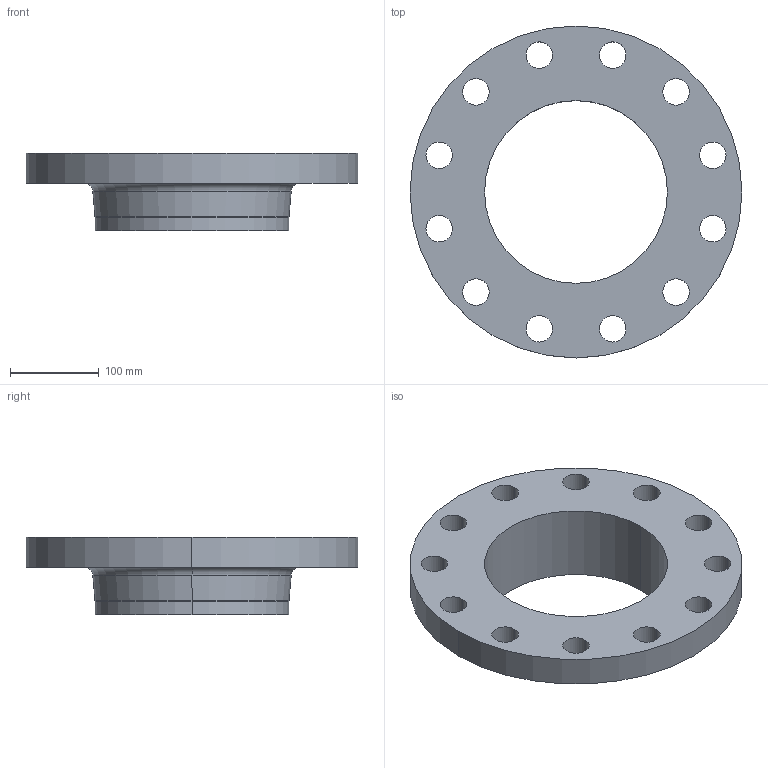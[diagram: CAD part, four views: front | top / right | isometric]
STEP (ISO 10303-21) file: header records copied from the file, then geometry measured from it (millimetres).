
FILE_DESCRIPTION (( 'STEP AP214' ), '1' );
FILE_NAME ('PN40 DN200 Type 11 - Type A Face.STEP', '2019-01-05T02:19:44', ( '' ), ( '' ), 'SwSTEP 2.0', 'SolidWorks 2019', '' );
FILE_SCHEMA (( 'AUTOMOTIVE_DESIGN' ));
Length unit declared in the file: millimetre
Products named in the file (1): PN40 DN200 Type 11 - Type A Face
Bounding box: 375 x 375 x 88 mm (x, y, z)
Volume: 2611759.1 mm3; surface area: 305473.8 mm2
Topology: 1 solids, 1 shells, 39 faces, 102 edges, 66 vertices
Faces by surface type: cylinder 30, torus 4, plane 3, cone 2
Entity records: 1324 total; most frequent: DIRECTION 252, CARTESIAN_POINT 208, ORIENTED_EDGE 204, AXIS2_PLACEMENT_3D 110, EDGE_CURVE 102, CIRCLE 70, VERTEX_POINT 66, EDGE_LOOP 66
